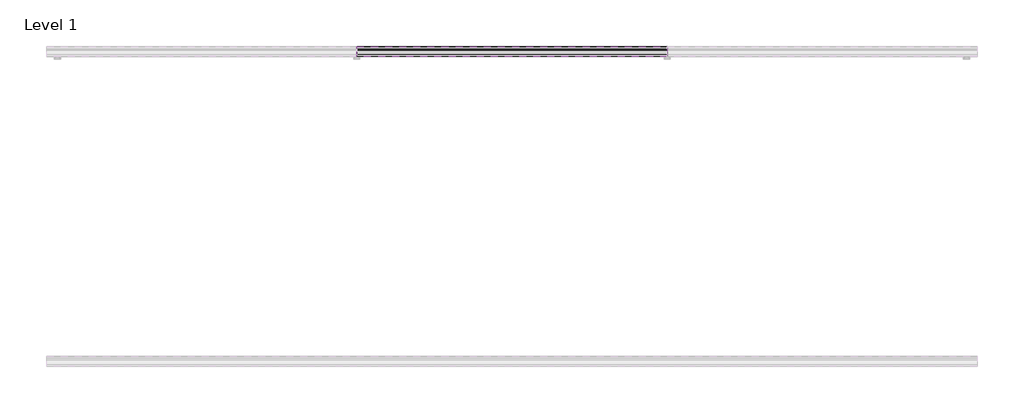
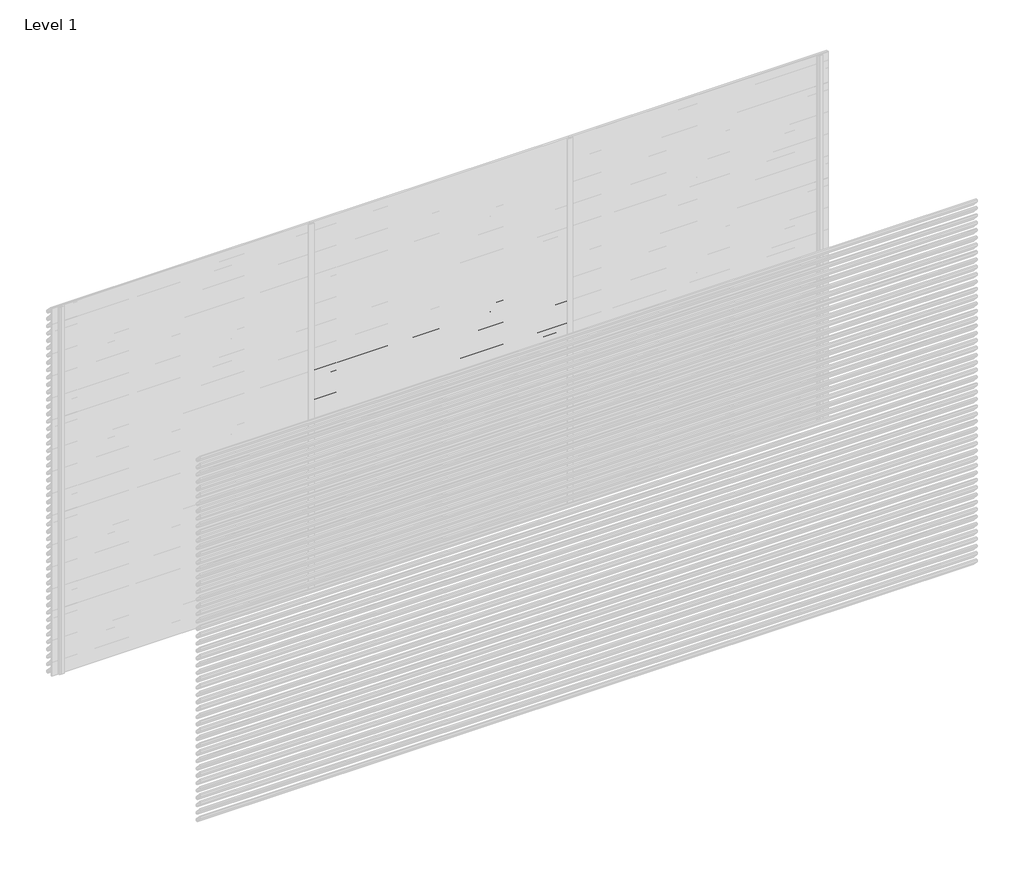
# One storey, part 98 of 153: 32 proxies.
"""IFC4 building model written with IfcOpenShell, lengths in millimetres."""

from ifc_helpers import new_model, si_unit, point, frame, frame_2d, origin, place, context, project, spatial, polyline, circle_curve, trimmed, segment, composite_curve, outline, extrude, element, save

model = new_model("IFC4")

# Units and contexts
model_context = context("Model", 3, world=origin())
ifc_project = project(units=[si_unit("LENGTHUNIT", "METRE", prefix="MILLI")], contexts=[model_context])

# Site, building, storey
site = spatial("IfcSite", under=ifc_project)
building = spatial("IfcBuilding", under=site)
storey = spatial("IfcBuildingStorey", under=building, Name="Level 1", Elevation=0.0)

# Proxies
placement = place(None, origin())
element("IfcBuildingElementProxy", 1, Name="Wall Sweeps", at=placement, inside=storey, context=model_context, shape_type="SweptSolid", body=[
    extrude(outline(composite_curve([segment(polyline([(43985.0540136, 1920.0), (43999.874191, 1918.7034025), (44049.0540136, 1865.0102749), (44049.0540136, 1853.6108187)]), True, "CONTINUOUS"), segment(trimmed(circle_curve(frame_2d((44045.7883652, 1853.897153)), 3.2781774), [point((44049.0540136, 1853.6108187))], [point((44046.4639442, 1850.6893438))], False, "CARTESIAN"), True, "CONTINUOUS"), segment(polyline([(44046.4639442, 1850.6893438), (44034.1895723, 1851.6282758), (43985.0540136, 1905.2730773), (43985.0540136, 1920.0)]), True, "CONTINUOUS")], self_intersect=False), holes=[composite_curve([segment(polyline([(43999.1621773, 1917.2599659), (43986.5540136, 1918.3630372), (43986.5540136, 1905.856213), (44034.8952036, 1853.0786805), (44046.3312542, 1852.2038762)]), True, "CONTINUOUS"), segment(trimmed(circle_curve(frame_2d((44045.7883652, 1853.897153)), 1.7781774), [point((44046.3312542, 1852.2038762))], [point((44047.5540136, 1853.6864389))], True, "CARTESIAN"), True, "CONTINUOUS"), segment(polyline([(44047.5540136, 1853.6864389), (44047.5540136, 1864.4271392), (43999.1621773, 1917.2599659)]), True, "CONTINUOUS")], self_intersect=False)]), frame((46966.6208098, 0.0, 0.0), z_axis=(1.0, 0.0, 0.0), x_axis=(0.0, 1.0, 0.0)), (0.0, 0.0, 1.0), 1999.9999998),
])
element("IfcBuildingElementProxy", 2, Name="Wall Sweeps", at=placement, inside=storey, context=model_context, shape_type="SweptSolid", body=[
    extrude(outline(composite_curve([segment(polyline([(43985.0540136, 1860.0), (43999.874191, 1858.7034025), (44049.0540136, 1805.0102749), (44049.0540136, 1793.6108187)]), True, "CONTINUOUS"), segment(trimmed(circle_curve(frame_2d((44045.7883652, 1793.897153)), 3.2781774), [point((44049.0540136, 1793.6108187))], [point((44046.4639442, 1790.6893438))], False, "CARTESIAN"), True, "CONTINUOUS"), segment(polyline([(44046.4639442, 1790.6893438), (44034.1895723, 1791.6282758), (43985.0540136, 1845.2730773), (43985.0540136, 1860.0)]), True, "CONTINUOUS")], self_intersect=False), holes=[composite_curve([segment(polyline([(43999.1621773, 1857.2599659), (43986.5540136, 1858.3630372), (43986.5540136, 1845.856213), (44034.8952036, 1793.0786805), (44046.3312542, 1792.2038762)]), True, "CONTINUOUS"), segment(trimmed(circle_curve(frame_2d((44045.7883652, 1793.897153)), 1.7781774), [point((44046.3312542, 1792.2038762))], [point((44047.5540136, 1793.6864389))], True, "CARTESIAN"), True, "CONTINUOUS"), segment(polyline([(44047.5540136, 1793.6864389), (44047.5540136, 1804.4271392), (43999.1621773, 1857.2599659)]), True, "CONTINUOUS")], self_intersect=False)]), frame((46966.6208098, 0.0, 0.0), z_axis=(1.0, 0.0, 0.0), x_axis=(0.0, 1.0, 0.0)), (0.0, 0.0, 1.0), 1999.9999998),
])
element("IfcBuildingElementProxy", 3, Name="Wall Sweeps", at=placement, inside=storey, context=model_context, shape_type="SweptSolid", body=[
    extrude(outline(composite_curve([segment(polyline([(43985.0540136, 1800.0), (43999.874191, 1798.7034025), (44049.0540136, 1745.0102749), (44049.0540136, 1733.6108187)]), True, "CONTINUOUS"), segment(trimmed(circle_curve(frame_2d((44045.7883652, 1733.897153)), 3.2781774), [point((44049.0540136, 1733.6108187))], [point((44046.4639442, 1730.6893438))], False, "CARTESIAN"), True, "CONTINUOUS"), segment(polyline([(44046.4639442, 1730.6893438), (44034.1895723, 1731.6282758), (43985.0540136, 1785.2730773), (43985.0540136, 1800.0)]), True, "CONTINUOUS")], self_intersect=False), holes=[composite_curve([segment(polyline([(43999.1621773, 1797.2599659), (43986.5540136, 1798.3630372), (43986.5540136, 1785.856213), (44034.8952036, 1733.0786805), (44046.3312542, 1732.2038762)]), True, "CONTINUOUS"), segment(trimmed(circle_curve(frame_2d((44045.7883652, 1733.897153)), 1.7781774), [point((44046.3312542, 1732.2038762))], [point((44047.5540136, 1733.6864389))], True, "CARTESIAN"), True, "CONTINUOUS"), segment(polyline([(44047.5540136, 1733.6864389), (44047.5540136, 1744.4271392), (43999.1621773, 1797.2599659)]), True, "CONTINUOUS")], self_intersect=False)]), frame((46966.6208098, 0.0, 0.0), z_axis=(1.0, 0.0, 0.0), x_axis=(0.0, 1.0, 0.0)), (0.0, 0.0, 1.0), 1999.9999998),
])
element("IfcBuildingElementProxy", 4, Name="Wall Sweeps", at=placement, inside=storey, context=model_context, shape_type="SweptSolid", body=[
    extrude(outline(composite_curve([segment(polyline([(43985.0540136, 1740.0), (43999.874191, 1738.7034025), (44049.0540136, 1685.0102749), (44049.0540136, 1673.6108187)]), True, "CONTINUOUS"), segment(trimmed(circle_curve(frame_2d((44045.7883652, 1673.897153)), 3.2781774), [point((44049.0540136, 1673.6108187))], [point((44046.4639442, 1670.6893438))], False, "CARTESIAN"), True, "CONTINUOUS"), segment(polyline([(44046.4639442, 1670.6893438), (44034.1895723, 1671.6282758), (43985.0540136, 1725.2730773), (43985.0540136, 1740.0)]), True, "CONTINUOUS")], self_intersect=False), holes=[composite_curve([segment(polyline([(43999.1621773, 1737.2599659), (43986.5540136, 1738.3630372), (43986.5540136, 1725.856213), (44034.8952036, 1673.0786805), (44046.3312542, 1672.2038762)]), True, "CONTINUOUS"), segment(trimmed(circle_curve(frame_2d((44045.7883652, 1673.897153)), 1.7781774), [point((44046.3312542, 1672.2038762))], [point((44047.5540136, 1673.6864389))], True, "CARTESIAN"), True, "CONTINUOUS"), segment(polyline([(44047.5540136, 1673.6864389), (44047.5540136, 1684.4271392), (43999.1621773, 1737.2599659)]), True, "CONTINUOUS")], self_intersect=False)]), frame((46966.6208098, 0.0, 0.0), z_axis=(1.0, 0.0, 0.0), x_axis=(0.0, 1.0, 0.0)), (0.0, 0.0, 1.0), 1999.9999998),
])
element("IfcBuildingElementProxy", 5, Name="Wall Sweeps", at=placement, inside=storey, context=model_context, shape_type="SweptSolid", body=[
    extrude(outline(composite_curve([segment(polyline([(43985.0540136, 1680.0), (43999.874191, 1678.7034025), (44049.0540136, 1625.0102749), (44049.0540136, 1613.6108187)]), True, "CONTINUOUS"), segment(trimmed(circle_curve(frame_2d((44045.7883652, 1613.897153)), 3.2781774), [point((44049.0540136, 1613.6108187))], [point((44046.4639442, 1610.6893438))], False, "CARTESIAN"), True, "CONTINUOUS"), segment(polyline([(44046.4639442, 1610.6893438), (44034.1895723, 1611.6282758), (43985.0540136, 1665.2730773), (43985.0540136, 1680.0)]), True, "CONTINUOUS")], self_intersect=False), holes=[composite_curve([segment(polyline([(43999.1621773, 1677.2599659), (43986.5540136, 1678.3630372), (43986.5540136, 1665.856213), (44034.8952036, 1613.0786805), (44046.3312542, 1612.2038762)]), True, "CONTINUOUS"), segment(trimmed(circle_curve(frame_2d((44045.7883652, 1613.897153)), 1.7781774), [point((44046.3312542, 1612.2038762))], [point((44047.5540136, 1613.6864389))], True, "CARTESIAN"), True, "CONTINUOUS"), segment(polyline([(44047.5540136, 1613.6864389), (44047.5540136, 1624.4271392), (43999.1621773, 1677.2599659)]), True, "CONTINUOUS")], self_intersect=False)]), frame((46966.6208098, 0.0, 0.0), z_axis=(1.0, 0.0, 0.0), x_axis=(0.0, 1.0, 0.0)), (0.0, 0.0, 1.0), 1999.9999998),
])
element("IfcBuildingElementProxy", 6, Name="Wall Sweeps", at=placement, inside=storey, context=model_context, shape_type="SweptSolid", body=[
    extrude(outline(composite_curve([segment(polyline([(43985.0540136, 1620.0), (43999.874191, 1618.7034025), (44049.0540136, 1565.0102749), (44049.0540136, 1553.6108187)]), True, "CONTINUOUS"), segment(trimmed(circle_curve(frame_2d((44045.7883652, 1553.897153)), 3.2781774), [point((44049.0540136, 1553.6108187))], [point((44046.4639442, 1550.6893438))], False, "CARTESIAN"), True, "CONTINUOUS"), segment(polyline([(44046.4639442, 1550.6893438), (44034.1895723, 1551.6282758), (43985.0540136, 1605.2730773), (43985.0540136, 1620.0)]), True, "CONTINUOUS")], self_intersect=False), holes=[composite_curve([segment(polyline([(43999.1621773, 1617.2599659), (43986.5540136, 1618.3630372), (43986.5540136, 1605.856213), (44034.8952036, 1553.0786805), (44046.3312542, 1552.2038762)]), True, "CONTINUOUS"), segment(trimmed(circle_curve(frame_2d((44045.7883652, 1553.897153)), 1.7781774), [point((44046.3312542, 1552.2038762))], [point((44047.5540136, 1553.6864389))], True, "CARTESIAN"), True, "CONTINUOUS"), segment(polyline([(44047.5540136, 1553.6864389), (44047.5540136, 1564.4271392), (43999.1621773, 1617.2599659)]), True, "CONTINUOUS")], self_intersect=False)]), frame((46966.6208098, 0.0, 0.0), z_axis=(1.0, 0.0, 0.0), x_axis=(0.0, 1.0, 0.0)), (0.0, 0.0, 1.0), 1999.9999998),
])
element("IfcBuildingElementProxy", 7, Name="Wall Sweeps", at=placement, inside=storey, context=model_context, shape_type="SweptSolid", body=[
    extrude(outline(composite_curve([segment(polyline([(43985.0540136, 1560.0), (43999.874191, 1558.7034025), (44049.0540136, 1505.0102749), (44049.0540136, 1493.6108187)]), True, "CONTINUOUS"), segment(trimmed(circle_curve(frame_2d((44045.7883652, 1493.897153)), 3.2781774), [point((44049.0540136, 1493.6108187))], [point((44046.4639442, 1490.6893438))], False, "CARTESIAN"), True, "CONTINUOUS"), segment(polyline([(44046.4639442, 1490.6893438), (44034.1895723, 1491.6282758), (43985.0540136, 1545.2730773), (43985.0540136, 1560.0)]), True, "CONTINUOUS")], self_intersect=False), holes=[composite_curve([segment(polyline([(43999.1621773, 1557.2599659), (43986.5540136, 1558.3630372), (43986.5540136, 1545.856213), (44034.8952036, 1493.0786805), (44046.3312542, 1492.2038762)]), True, "CONTINUOUS"), segment(trimmed(circle_curve(frame_2d((44045.7883652, 1493.897153)), 1.7781774), [point((44046.3312542, 1492.2038762))], [point((44047.5540136, 1493.6864389))], True, "CARTESIAN"), True, "CONTINUOUS"), segment(polyline([(44047.5540136, 1493.6864389), (44047.5540136, 1504.4271392), (43999.1621773, 1557.2599659)]), True, "CONTINUOUS")], self_intersect=False)]), frame((46966.6208098, 0.0, 0.0), z_axis=(1.0, 0.0, 0.0), x_axis=(0.0, 1.0, 0.0)), (0.0, 0.0, 1.0), 1999.9999998),
])
element("IfcBuildingElementProxy", 8, Name="Wall Sweeps", at=placement, inside=storey, context=model_context, shape_type="SweptSolid", body=[
    extrude(outline(composite_curve([segment(polyline([(43985.0540136, 1500.0), (43999.874191, 1498.7034025), (44049.0540136, 1445.0102749), (44049.0540136, 1433.6108187)]), True, "CONTINUOUS"), segment(trimmed(circle_curve(frame_2d((44045.7883652, 1433.897153)), 3.2781774), [point((44049.0540136, 1433.6108187))], [point((44046.4639442, 1430.6893438))], False, "CARTESIAN"), True, "CONTINUOUS"), segment(polyline([(44046.4639442, 1430.6893438), (44034.1895723, 1431.6282758), (43985.0540136, 1485.2730773), (43985.0540136, 1500.0)]), True, "CONTINUOUS")], self_intersect=False), holes=[composite_curve([segment(polyline([(43999.1621773, 1497.2599659), (43986.5540136, 1498.3630372), (43986.5540136, 1485.856213), (44034.8952036, 1433.0786805), (44046.3312542, 1432.2038762)]), True, "CONTINUOUS"), segment(trimmed(circle_curve(frame_2d((44045.7883652, 1433.897153)), 1.7781774), [point((44046.3312542, 1432.2038762))], [point((44047.5540136, 1433.6864389))], True, "CARTESIAN"), True, "CONTINUOUS"), segment(polyline([(44047.5540136, 1433.6864389), (44047.5540136, 1444.4271392), (43999.1621773, 1497.2599659)]), True, "CONTINUOUS")], self_intersect=False)]), frame((46966.6208098, 0.0, 0.0), z_axis=(1.0, 0.0, 0.0), x_axis=(0.0, 1.0, 0.0)), (0.0, 0.0, 1.0), 1999.9999998),
])
element("IfcBuildingElementProxy", 9, Name="Wall Sweeps", at=placement, inside=storey, context=model_context, shape_type="SweptSolid", body=[
    extrude(outline(composite_curve([segment(polyline([(43985.0540136, 1440.0), (43999.874191, 1438.7034025), (44049.0540136, 1385.0102749), (44049.0540136, 1373.6108187)]), True, "CONTINUOUS"), segment(trimmed(circle_curve(frame_2d((44045.7883652, 1373.897153)), 3.2781774), [point((44049.0540136, 1373.6108187))], [point((44046.4639442, 1370.6893438))], False, "CARTESIAN"), True, "CONTINUOUS"), segment(polyline([(44046.4639442, 1370.6893438), (44034.1895723, 1371.6282758), (43985.0540136, 1425.2730773), (43985.0540136, 1440.0)]), True, "CONTINUOUS")], self_intersect=False), holes=[composite_curve([segment(polyline([(43999.1621773, 1437.2599659), (43986.5540136, 1438.3630372), (43986.5540136, 1425.856213), (44034.8952036, 1373.0786805), (44046.3312542, 1372.2038762)]), True, "CONTINUOUS"), segment(trimmed(circle_curve(frame_2d((44045.7883652, 1373.897153)), 1.7781774), [point((44046.3312542, 1372.2038762))], [point((44047.5540136, 1373.6864389))], True, "CARTESIAN"), True, "CONTINUOUS"), segment(polyline([(44047.5540136, 1373.6864389), (44047.5540136, 1384.4271392), (43999.1621773, 1437.2599659)]), True, "CONTINUOUS")], self_intersect=False)]), frame((46966.6208098, 0.0, 0.0), z_axis=(1.0, 0.0, 0.0), x_axis=(0.0, 1.0, 0.0)), (0.0, 0.0, 1.0), 1999.9999998),
])
element("IfcBuildingElementProxy", 10, Name="Wall Sweeps", at=placement, inside=storey, context=model_context, shape_type="SweptSolid", body=[
    extrude(outline(composite_curve([segment(polyline([(43985.0540136, 1380.0), (43999.874191, 1378.7034025), (44049.0540136, 1325.0102749), (44049.0540136, 1313.6108187)]), True, "CONTINUOUS"), segment(trimmed(circle_curve(frame_2d((44045.7883652, 1313.897153)), 3.2781774), [point((44049.0540136, 1313.6108187))], [point((44046.4639442, 1310.6893438))], False, "CARTESIAN"), True, "CONTINUOUS"), segment(polyline([(44046.4639442, 1310.6893438), (44034.1895723, 1311.6282758), (43985.0540136, 1365.2730773), (43985.0540136, 1380.0)]), True, "CONTINUOUS")], self_intersect=False), holes=[composite_curve([segment(polyline([(43999.1621773, 1377.2599659), (43986.5540136, 1378.3630372), (43986.5540136, 1365.856213), (44034.8952036, 1313.0786805), (44046.3312542, 1312.2038762)]), True, "CONTINUOUS"), segment(trimmed(circle_curve(frame_2d((44045.7883652, 1313.897153)), 1.7781774), [point((44046.3312542, 1312.2038762))], [point((44047.5540136, 1313.6864389))], True, "CARTESIAN"), True, "CONTINUOUS"), segment(polyline([(44047.5540136, 1313.6864389), (44047.5540136, 1324.4271392), (43999.1621773, 1377.2599659)]), True, "CONTINUOUS")], self_intersect=False)]), frame((46966.6208098, 0.0, 0.0), z_axis=(1.0, 0.0, 0.0), x_axis=(0.0, 1.0, 0.0)), (0.0, 0.0, 1.0), 1999.9999998),
])
element("IfcBuildingElementProxy", 11, Name="Wall Sweeps", at=placement, inside=storey, context=model_context, shape_type="SweptSolid", body=[
    extrude(outline(composite_curve([segment(polyline([(43985.0540136, 1320.0), (43999.874191, 1318.7034025), (44049.0540136, 1265.0102749), (44049.0540136, 1253.6108187)]), True, "CONTINUOUS"), segment(trimmed(circle_curve(frame_2d((44045.7883652, 1253.897153)), 3.2781774), [point((44049.0540136, 1253.6108187))], [point((44046.4639442, 1250.6893438))], False, "CARTESIAN"), True, "CONTINUOUS"), segment(polyline([(44046.4639442, 1250.6893438), (44034.1895723, 1251.6282758), (43985.0540136, 1305.2730773), (43985.0540136, 1320.0)]), True, "CONTINUOUS")], self_intersect=False), holes=[composite_curve([segment(polyline([(43999.1621773, 1317.2599659), (43986.5540136, 1318.3630372), (43986.5540136, 1305.856213), (44034.8952036, 1253.0786805), (44046.3312542, 1252.2038762)]), True, "CONTINUOUS"), segment(trimmed(circle_curve(frame_2d((44045.7883652, 1253.897153)), 1.7781774), [point((44046.3312542, 1252.2038762))], [point((44047.5540136, 1253.6864389))], True, "CARTESIAN"), True, "CONTINUOUS"), segment(polyline([(44047.5540136, 1253.6864389), (44047.5540136, 1264.4271392), (43999.1621773, 1317.2599659)]), True, "CONTINUOUS")], self_intersect=False)]), frame((46966.6208098, 0.0, 0.0), z_axis=(1.0, 0.0, 0.0), x_axis=(0.0, 1.0, 0.0)), (0.0, 0.0, 1.0), 1999.9999998),
])
element("IfcBuildingElementProxy", 12, Name="Wall Sweeps", at=placement, inside=storey, context=model_context, shape_type="SweptSolid", body=[
    extrude(outline(composite_curve([segment(polyline([(43985.0540136, 1260.0), (43999.874191, 1258.7034025), (44049.0540136, 1205.0102749), (44049.0540136, 1193.6108187)]), True, "CONTINUOUS"), segment(trimmed(circle_curve(frame_2d((44045.7883652, 1193.897153)), 3.2781774), [point((44049.0540136, 1193.6108187))], [point((44046.4639442, 1190.6893438))], False, "CARTESIAN"), True, "CONTINUOUS"), segment(polyline([(44046.4639442, 1190.6893438), (44034.1895723, 1191.6282758), (43985.0540136, 1245.2730773), (43985.0540136, 1260.0)]), True, "CONTINUOUS")], self_intersect=False), holes=[composite_curve([segment(polyline([(43999.1621773, 1257.2599659), (43986.5540136, 1258.3630372), (43986.5540136, 1245.856213), (44034.8952036, 1193.0786805), (44046.3312542, 1192.2038762)]), True, "CONTINUOUS"), segment(trimmed(circle_curve(frame_2d((44045.7883652, 1193.897153)), 1.7781774), [point((44046.3312542, 1192.2038762))], [point((44047.5540136, 1193.6864389))], True, "CARTESIAN"), True, "CONTINUOUS"), segment(polyline([(44047.5540136, 1193.6864389), (44047.5540136, 1204.4271392), (43999.1621773, 1257.2599659)]), True, "CONTINUOUS")], self_intersect=False)]), frame((46966.6208098, 0.0, 0.0), z_axis=(1.0, 0.0, 0.0), x_axis=(0.0, 1.0, 0.0)), (0.0, 0.0, 1.0), 1999.9999998),
])
element("IfcBuildingElementProxy", 13, Name="Wall Sweeps", at=placement, inside=storey, context=model_context, shape_type="SweptSolid", body=[
    extrude(outline(composite_curve([segment(polyline([(43985.0540136, 1200.0), (43999.874191, 1198.7034025), (44049.0540136, 1145.0102749), (44049.0540136, 1133.6108187)]), True, "CONTINUOUS"), segment(trimmed(circle_curve(frame_2d((44045.7883652, 1133.897153)), 3.2781774), [point((44049.0540136, 1133.6108187))], [point((44046.4639442, 1130.6893438))], False, "CARTESIAN"), True, "CONTINUOUS"), segment(polyline([(44046.4639442, 1130.6893438), (44034.1895723, 1131.6282758), (43985.0540136, 1185.2730773), (43985.0540136, 1200.0)]), True, "CONTINUOUS")], self_intersect=False), holes=[composite_curve([segment(polyline([(43999.1621773, 1197.2599659), (43986.5540136, 1198.3630372), (43986.5540136, 1185.856213), (44034.8952036, 1133.0786805), (44046.3312542, 1132.2038762)]), True, "CONTINUOUS"), segment(trimmed(circle_curve(frame_2d((44045.7883652, 1133.897153)), 1.7781774), [point((44046.3312542, 1132.2038762))], [point((44047.5540136, 1133.6864389))], True, "CARTESIAN"), True, "CONTINUOUS"), segment(polyline([(44047.5540136, 1133.6864389), (44047.5540136, 1144.4271392), (43999.1621773, 1197.2599659)]), True, "CONTINUOUS")], self_intersect=False)]), frame((46966.6208098, 0.0, 0.0), z_axis=(1.0, 0.0, 0.0), x_axis=(0.0, 1.0, 0.0)), (0.0, 0.0, 1.0), 1999.9999998),
])
element("IfcBuildingElementProxy", 14, Name="Wall Sweeps", at=placement, inside=storey, context=model_context, shape_type="SweptSolid", body=[
    extrude(outline(composite_curve([segment(polyline([(43985.0540136, 1140.0), (43999.874191, 1138.7034025), (44049.0540136, 1085.0102749), (44049.0540136, 1073.6108187)]), True, "CONTINUOUS"), segment(trimmed(circle_curve(frame_2d((44045.7883652, 1073.897153)), 3.2781774), [point((44049.0540136, 1073.6108187))], [point((44046.4639442, 1070.6893438))], False, "CARTESIAN"), True, "CONTINUOUS"), segment(polyline([(44046.4639442, 1070.6893438), (44034.1895723, 1071.6282758), (43985.0540136, 1125.2730773), (43985.0540136, 1140.0)]), True, "CONTINUOUS")], self_intersect=False), holes=[composite_curve([segment(polyline([(43999.1621773, 1137.2599659), (43986.5540136, 1138.3630372), (43986.5540136, 1125.856213), (44034.8952036, 1073.0786805), (44046.3312542, 1072.2038762)]), True, "CONTINUOUS"), segment(trimmed(circle_curve(frame_2d((44045.7883652, 1073.897153)), 1.7781774), [point((44046.3312542, 1072.2038762))], [point((44047.5540136, 1073.6864389))], True, "CARTESIAN"), True, "CONTINUOUS"), segment(polyline([(44047.5540136, 1073.6864389), (44047.5540136, 1084.4271392), (43999.1621773, 1137.2599659)]), True, "CONTINUOUS")], self_intersect=False)]), frame((46966.6208098, 0.0, 0.0), z_axis=(1.0, 0.0, 0.0), x_axis=(0.0, 1.0, 0.0)), (0.0, 0.0, 1.0), 1999.9999998),
])
element("IfcBuildingElementProxy", 15, Name="Wall Sweeps", at=placement, inside=storey, context=model_context, shape_type="SweptSolid", body=[
    extrude(outline(composite_curve([segment(polyline([(43985.0540136, 1080.0), (43999.874191, 1078.7034025), (44049.0540136, 1025.0102749), (44049.0540136, 1013.6108187)]), True, "CONTINUOUS"), segment(trimmed(circle_curve(frame_2d((44045.7883652, 1013.897153)), 3.2781774), [point((44049.0540136, 1013.6108187))], [point((44046.4639442, 1010.6893438))], False, "CARTESIAN"), True, "CONTINUOUS"), segment(polyline([(44046.4639442, 1010.6893438), (44034.1895723, 1011.6282758), (43985.0540136, 1065.2730773), (43985.0540136, 1080.0)]), True, "CONTINUOUS")], self_intersect=False), holes=[composite_curve([segment(polyline([(43999.1621773, 1077.2599659), (43986.5540136, 1078.3630372), (43986.5540136, 1065.856213), (44034.8952036, 1013.0786805), (44046.3312542, 1012.2038762)]), True, "CONTINUOUS"), segment(trimmed(circle_curve(frame_2d((44045.7883652, 1013.897153)), 1.7781774), [point((44046.3312542, 1012.2038762))], [point((44047.5540136, 1013.6864389))], True, "CARTESIAN"), True, "CONTINUOUS"), segment(polyline([(44047.5540136, 1013.6864389), (44047.5540136, 1024.4271392), (43999.1621773, 1077.2599659)]), True, "CONTINUOUS")], self_intersect=False)]), frame((46966.6208098, 0.0, 0.0), z_axis=(1.0, 0.0, 0.0), x_axis=(0.0, 1.0, 0.0)), (0.0, 0.0, 1.0), 1999.9999998),
])
element("IfcBuildingElementProxy", 16, Name="Wall Sweeps", at=placement, inside=storey, context=model_context, shape_type="SweptSolid", body=[
    extrude(outline(composite_curve([segment(polyline([(43985.0540136, 1020.0), (43999.874191, 1018.7034025), (44049.0540136, 965.0102749), (44049.0540136, 953.6108187)]), True, "CONTINUOUS"), segment(trimmed(circle_curve(frame_2d((44045.7883652, 953.897153)), 3.2781774), [point((44049.0540136, 953.6108187))], [point((44046.4639442, 950.6893438))], False, "CARTESIAN"), True, "CONTINUOUS"), segment(polyline([(44046.4639442, 950.6893438), (44034.1895723, 951.6282758), (43985.0540136, 1005.2730773), (43985.0540136, 1020.0)]), True, "CONTINUOUS")], self_intersect=False), holes=[composite_curve([segment(polyline([(43999.1621773, 1017.2599659), (43986.5540136, 1018.3630372), (43986.5540136, 1005.856213), (44034.8952036, 953.0786805), (44046.3312542, 952.2038762)]), True, "CONTINUOUS"), segment(trimmed(circle_curve(frame_2d((44045.7883652, 953.897153)), 1.7781774), [point((44046.3312542, 952.2038762))], [point((44047.5540136, 953.6864389))], True, "CARTESIAN"), True, "CONTINUOUS"), segment(polyline([(44047.5540136, 953.6864389), (44047.5540136, 964.4271392), (43999.1621773, 1017.2599659)]), True, "CONTINUOUS")], self_intersect=False)]), frame((46966.6208098, 0.0, 0.0), z_axis=(1.0, 0.0, 0.0), x_axis=(0.0, 1.0, 0.0)), (0.0, 0.0, 1.0), 1999.9999998),
])
element("IfcBuildingElementProxy", 17, Name="Wall Sweeps", at=placement, inside=storey, context=model_context, shape_type="SweptSolid", body=[
    extrude(outline(composite_curve([segment(polyline([(43985.0540136, 960.0), (43999.874191, 958.7034025), (44049.0540136, 905.0102749), (44049.0540136, 893.6108187)]), True, "CONTINUOUS"), segment(trimmed(circle_curve(frame_2d((44045.7883652, 893.897153)), 3.2781774), [point((44049.0540136, 893.6108187))], [point((44046.4639442, 890.6893438))], False, "CARTESIAN"), True, "CONTINUOUS"), segment(polyline([(44046.4639442, 890.6893438), (44034.1895723, 891.6282758), (43985.0540136, 945.2730773), (43985.0540136, 960.0)]), True, "CONTINUOUS")], self_intersect=False), holes=[composite_curve([segment(polyline([(43999.1621773, 957.2599659), (43986.5540136, 958.3630372), (43986.5540136, 945.856213), (44034.8952036, 893.0786805), (44046.3312542, 892.2038762)]), True, "CONTINUOUS"), segment(trimmed(circle_curve(frame_2d((44045.7883652, 893.897153)), 1.7781774), [point((44046.3312542, 892.2038762))], [point((44047.5540136, 893.6864389))], True, "CARTESIAN"), True, "CONTINUOUS"), segment(polyline([(44047.5540136, 893.6864389), (44047.5540136, 904.4271392), (43999.1621773, 957.2599659)]), True, "CONTINUOUS")], self_intersect=False)]), frame((46966.6208098, 0.0, 0.0), z_axis=(1.0, 0.0, 0.0), x_axis=(0.0, 1.0, 0.0)), (0.0, 0.0, 1.0), 1999.9999998),
])
element("IfcBuildingElementProxy", 18, Name="Wall Sweeps", at=placement, inside=storey, context=model_context, shape_type="SweptSolid", body=[
    extrude(outline(composite_curve([segment(polyline([(43985.0540136, 900.0), (43999.874191, 898.7034025), (44049.0540136, 845.0102749), (44049.0540136, 833.6108187)]), True, "CONTINUOUS"), segment(trimmed(circle_curve(frame_2d((44045.7883652, 833.897153)), 3.2781774), [point((44049.0540136, 833.6108187))], [point((44046.4639442, 830.6893438))], False, "CARTESIAN"), True, "CONTINUOUS"), segment(polyline([(44046.4639442, 830.6893438), (44034.1895723, 831.6282758), (43985.0540136, 885.2730773), (43985.0540136, 900.0)]), True, "CONTINUOUS")], self_intersect=False), holes=[composite_curve([segment(polyline([(43999.1621773, 897.2599659), (43986.5540136, 898.3630372), (43986.5540136, 885.856213), (44034.8952036, 833.0786805), (44046.3312542, 832.2038762)]), True, "CONTINUOUS"), segment(trimmed(circle_curve(frame_2d((44045.7883652, 833.897153)), 1.7781774), [point((44046.3312542, 832.2038762))], [point((44047.5540136, 833.6864389))], True, "CARTESIAN"), True, "CONTINUOUS"), segment(polyline([(44047.5540136, 833.6864389), (44047.5540136, 844.4271392), (43999.1621773, 897.2599659)]), True, "CONTINUOUS")], self_intersect=False)]), frame((46966.6208098, 0.0, 0.0), z_axis=(1.0, 0.0, 0.0), x_axis=(0.0, 1.0, 0.0)), (0.0, 0.0, 1.0), 1999.9999998),
])
element("IfcBuildingElementProxy", 19, Name="Wall Sweeps", at=placement, inside=storey, context=model_context, shape_type="SweptSolid", body=[
    extrude(outline(composite_curve([segment(polyline([(43985.0540136, 840.0), (43999.874191, 838.7034025), (44049.0540136, 785.0102749), (44049.0540136, 773.6108187)]), True, "CONTINUOUS"), segment(trimmed(circle_curve(frame_2d((44045.7883652, 773.897153)), 3.2781774), [point((44049.0540136, 773.6108187))], [point((44046.4639442, 770.6893438))], False, "CARTESIAN"), True, "CONTINUOUS"), segment(polyline([(44046.4639442, 770.6893438), (44034.1895723, 771.6282758), (43985.0540136, 825.2730773), (43985.0540136, 840.0)]), True, "CONTINUOUS")], self_intersect=False), holes=[composite_curve([segment(polyline([(43999.1621773, 837.2599659), (43986.5540136, 838.3630372), (43986.5540136, 825.856213), (44034.8952036, 773.0786805), (44046.3312542, 772.2038762)]), True, "CONTINUOUS"), segment(trimmed(circle_curve(frame_2d((44045.7883652, 773.897153)), 1.7781774), [point((44046.3312542, 772.2038762))], [point((44047.5540136, 773.6864389))], True, "CARTESIAN"), True, "CONTINUOUS"), segment(polyline([(44047.5540136, 773.6864389), (44047.5540136, 784.4271392), (43999.1621773, 837.2599659)]), True, "CONTINUOUS")], self_intersect=False)]), frame((46966.6208098, 0.0, 0.0), z_axis=(1.0, 0.0, 0.0), x_axis=(0.0, 1.0, 0.0)), (0.0, 0.0, 1.0), 1999.9999998),
])
element("IfcBuildingElementProxy", 20, Name="Wall Sweeps", at=placement, inside=storey, context=model_context, shape_type="SweptSolid", body=[
    extrude(outline(composite_curve([segment(polyline([(43985.0540136, 780.0), (43999.874191, 778.7034025), (44049.0540136, 725.0102749), (44049.0540136, 713.6108187)]), True, "CONTINUOUS"), segment(trimmed(circle_curve(frame_2d((44045.7883652, 713.897153)), 3.2781774), [point((44049.0540136, 713.6108187))], [point((44046.4639442, 710.6893438))], False, "CARTESIAN"), True, "CONTINUOUS"), segment(polyline([(44046.4639442, 710.6893438), (44034.1895723, 711.6282758), (43985.0540136, 765.2730773), (43985.0540136, 780.0)]), True, "CONTINUOUS")], self_intersect=False), holes=[composite_curve([segment(polyline([(43999.1621773, 777.2599659), (43986.5540136, 778.3630372), (43986.5540136, 765.856213), (44034.8952036, 713.0786805), (44046.3312542, 712.2038762)]), True, "CONTINUOUS"), segment(trimmed(circle_curve(frame_2d((44045.7883652, 713.897153)), 1.7781774), [point((44046.3312542, 712.2038762))], [point((44047.5540136, 713.6864389))], True, "CARTESIAN"), True, "CONTINUOUS"), segment(polyline([(44047.5540136, 713.6864389), (44047.5540136, 724.4271392), (43999.1621773, 777.2599659)]), True, "CONTINUOUS")], self_intersect=False)]), frame((46966.6208098, 0.0, 0.0), z_axis=(1.0, 0.0, 0.0), x_axis=(0.0, 1.0, 0.0)), (0.0, 0.0, 1.0), 1999.9999998),
])
element("IfcBuildingElementProxy", 21, Name="Wall Sweeps", at=placement, inside=storey, context=model_context, shape_type="SweptSolid", body=[
    extrude(outline(composite_curve([segment(polyline([(43985.0540136, 720.0), (43999.874191, 718.7034025), (44049.0540136, 665.0102749), (44049.0540136, 653.6108187)]), True, "CONTINUOUS"), segment(trimmed(circle_curve(frame_2d((44045.7883652, 653.897153)), 3.2781774), [point((44049.0540136, 653.6108187))], [point((44046.4639442, 650.6893438))], False, "CARTESIAN"), True, "CONTINUOUS"), segment(polyline([(44046.4639442, 650.6893438), (44034.1895723, 651.6282758), (43985.0540136, 705.2730773), (43985.0540136, 720.0)]), True, "CONTINUOUS")], self_intersect=False), holes=[composite_curve([segment(polyline([(43999.1621773, 717.2599659), (43986.5540136, 718.3630372), (43986.5540136, 705.856213), (44034.8952036, 653.0786805), (44046.3312542, 652.2038762)]), True, "CONTINUOUS"), segment(trimmed(circle_curve(frame_2d((44045.7883652, 653.897153)), 1.7781774), [point((44046.3312542, 652.2038762))], [point((44047.5540136, 653.6864389))], True, "CARTESIAN"), True, "CONTINUOUS"), segment(polyline([(44047.5540136, 653.6864389), (44047.5540136, 664.4271392), (43999.1621773, 717.2599659)]), True, "CONTINUOUS")], self_intersect=False)]), frame((46966.6208098, 0.0, 0.0), z_axis=(1.0, 0.0, 0.0), x_axis=(0.0, 1.0, 0.0)), (0.0, 0.0, 1.0), 1999.9999998),
])
element("IfcBuildingElementProxy", 22, Name="Wall Sweeps", at=placement, inside=storey, context=model_context, shape_type="SweptSolid", body=[
    extrude(outline(composite_curve([segment(polyline([(43985.0540136, 660.0), (43999.874191, 658.7034025), (44049.0540136, 605.0102749), (44049.0540136, 593.6108187)]), True, "CONTINUOUS"), segment(trimmed(circle_curve(frame_2d((44045.7883652, 593.897153)), 3.2781774), [point((44049.0540136, 593.6108187))], [point((44046.4639442, 590.6893438))], False, "CARTESIAN"), True, "CONTINUOUS"), segment(polyline([(44046.4639442, 590.6893438), (44034.1895723, 591.6282758), (43985.0540136, 645.2730773), (43985.0540136, 660.0)]), True, "CONTINUOUS")], self_intersect=False), holes=[composite_curve([segment(polyline([(43999.1621773, 657.2599659), (43986.5540136, 658.3630372), (43986.5540136, 645.856213), (44034.8952036, 593.0786805), (44046.3312542, 592.2038762)]), True, "CONTINUOUS"), segment(trimmed(circle_curve(frame_2d((44045.7883652, 593.897153)), 1.7781774), [point((44046.3312542, 592.2038762))], [point((44047.5540136, 593.6864389))], True, "CARTESIAN"), True, "CONTINUOUS"), segment(polyline([(44047.5540136, 593.6864389), (44047.5540136, 604.4271392), (43999.1621773, 657.2599659)]), True, "CONTINUOUS")], self_intersect=False)]), frame((46966.6208098, 0.0, 0.0), z_axis=(1.0, 0.0, 0.0), x_axis=(0.0, 1.0, 0.0)), (0.0, 0.0, 1.0), 1999.9999998),
])
element("IfcBuildingElementProxy", 23, Name="Wall Sweeps", at=placement, inside=storey, context=model_context, shape_type="SweptSolid", body=[
    extrude(outline(composite_curve([segment(polyline([(43985.0540136, 600.0), (43999.874191, 598.7034025), (44049.0540136, 545.0102749), (44049.0540136, 533.6108187)]), True, "CONTINUOUS"), segment(trimmed(circle_curve(frame_2d((44045.7883652, 533.897153)), 3.2781774), [point((44049.0540136, 533.6108187))], [point((44046.4639442, 530.6893438))], False, "CARTESIAN"), True, "CONTINUOUS"), segment(polyline([(44046.4639442, 530.6893438), (44034.1895723, 531.6282758), (43985.0540136, 585.2730773), (43985.0540136, 600.0)]), True, "CONTINUOUS")], self_intersect=False), holes=[composite_curve([segment(polyline([(43999.1621773, 597.2599659), (43986.5540136, 598.3630372), (43986.5540136, 585.856213), (44034.8952036, 533.0786805), (44046.3312542, 532.2038762)]), True, "CONTINUOUS"), segment(trimmed(circle_curve(frame_2d((44045.7883652, 533.897153)), 1.7781774), [point((44046.3312542, 532.2038762))], [point((44047.5540136, 533.6864389))], True, "CARTESIAN"), True, "CONTINUOUS"), segment(polyline([(44047.5540136, 533.6864389), (44047.5540136, 544.4271392), (43999.1621773, 597.2599659)]), True, "CONTINUOUS")], self_intersect=False)]), frame((46966.6208098, 0.0, 0.0), z_axis=(1.0, 0.0, 0.0), x_axis=(0.0, 1.0, 0.0)), (0.0, 0.0, 1.0), 1999.9999998),
])
element("IfcBuildingElementProxy", 24, Name="Wall Sweeps", at=placement, inside=storey, context=model_context, shape_type="SweptSolid", body=[
    extrude(outline(composite_curve([segment(polyline([(43985.0540136, 540.0), (43999.874191, 538.7034025), (44049.0540136, 485.0102749), (44049.0540136, 473.6108187)]), True, "CONTINUOUS"), segment(trimmed(circle_curve(frame_2d((44045.7883652, 473.897153)), 3.2781774), [point((44049.0540136, 473.6108187))], [point((44046.4639442, 470.6893438))], False, "CARTESIAN"), True, "CONTINUOUS"), segment(polyline([(44046.4639442, 470.6893438), (44034.1895723, 471.6282758), (43985.0540136, 525.2730773), (43985.0540136, 540.0)]), True, "CONTINUOUS")], self_intersect=False), holes=[composite_curve([segment(polyline([(43999.1621773, 537.2599659), (43986.5540136, 538.3630372), (43986.5540136, 525.856213), (44034.8952036, 473.0786805), (44046.3312542, 472.2038762)]), True, "CONTINUOUS"), segment(trimmed(circle_curve(frame_2d((44045.7883652, 473.897153)), 1.7781774), [point((44046.3312542, 472.2038762))], [point((44047.5540136, 473.6864389))], True, "CARTESIAN"), True, "CONTINUOUS"), segment(polyline([(44047.5540136, 473.6864389), (44047.5540136, 484.4271392), (43999.1621773, 537.2599659)]), True, "CONTINUOUS")], self_intersect=False)]), frame((46966.6208098, 0.0, 0.0), z_axis=(1.0, 0.0, 0.0), x_axis=(0.0, 1.0, 0.0)), (0.0, 0.0, 1.0), 1999.9999998),
])
element("IfcBuildingElementProxy", 25, Name="Wall Sweeps", at=placement, inside=storey, context=model_context, shape_type="SweptSolid", body=[
    extrude(outline(composite_curve([segment(polyline([(43985.0540136, 480.0), (43999.874191, 478.7034025), (44049.0540136, 425.0102749), (44049.0540136, 413.6108187)]), True, "CONTINUOUS"), segment(trimmed(circle_curve(frame_2d((44045.7883652, 413.897153)), 3.2781774), [point((44049.0540136, 413.6108187))], [point((44046.4639442, 410.6893438))], False, "CARTESIAN"), True, "CONTINUOUS"), segment(polyline([(44046.4639442, 410.6893438), (44034.1895723, 411.6282758), (43985.0540136, 465.2730773), (43985.0540136, 480.0)]), True, "CONTINUOUS")], self_intersect=False), holes=[composite_curve([segment(polyline([(43999.1621773, 477.2599659), (43986.5540136, 478.3630372), (43986.5540136, 465.856213), (44034.8952036, 413.0786805), (44046.3312542, 412.2038762)]), True, "CONTINUOUS"), segment(trimmed(circle_curve(frame_2d((44045.7883652, 413.897153)), 1.7781774), [point((44046.3312542, 412.2038762))], [point((44047.5540136, 413.6864389))], True, "CARTESIAN"), True, "CONTINUOUS"), segment(polyline([(44047.5540136, 413.6864389), (44047.5540136, 424.4271392), (43999.1621773, 477.2599659)]), True, "CONTINUOUS")], self_intersect=False)]), frame((46966.6208098, 0.0, 0.0), z_axis=(1.0, 0.0, 0.0), x_axis=(0.0, 1.0, 0.0)), (0.0, 0.0, 1.0), 1999.9999998),
])
element("IfcBuildingElementProxy", 26, Name="Wall Sweeps", at=placement, inside=storey, context=model_context, shape_type="SweptSolid", body=[
    extrude(outline(composite_curve([segment(polyline([(43985.0540136, 420.0), (43999.874191, 418.7034025), (44049.0540136, 365.0102749), (44049.0540136, 353.6108187)]), True, "CONTINUOUS"), segment(trimmed(circle_curve(frame_2d((44045.7883652, 353.897153)), 3.2781774), [point((44049.0540136, 353.6108187))], [point((44046.4639442, 350.6893438))], False, "CARTESIAN"), True, "CONTINUOUS"), segment(polyline([(44046.4639442, 350.6893438), (44034.1895723, 351.6282758), (43985.0540136, 405.2730773), (43985.0540136, 420.0)]), True, "CONTINUOUS")], self_intersect=False), holes=[composite_curve([segment(polyline([(43999.1621773, 417.2599659), (43986.5540136, 418.3630372), (43986.5540136, 405.856213), (44034.8952036, 353.0786805), (44046.3312542, 352.2038762)]), True, "CONTINUOUS"), segment(trimmed(circle_curve(frame_2d((44045.7883652, 353.897153)), 1.7781774), [point((44046.3312542, 352.2038762))], [point((44047.5540136, 353.6864389))], True, "CARTESIAN"), True, "CONTINUOUS"), segment(polyline([(44047.5540136, 353.6864389), (44047.5540136, 364.4271392), (43999.1621773, 417.2599659)]), True, "CONTINUOUS")], self_intersect=False)]), frame((46966.6208098, 0.0, 0.0), z_axis=(1.0, 0.0, 0.0), x_axis=(0.0, 1.0, 0.0)), (0.0, 0.0, 1.0), 1999.9999998),
])
element("IfcBuildingElementProxy", 27, Name="Wall Sweeps", at=placement, inside=storey, context=model_context, shape_type="SweptSolid", body=[
    extrude(outline(composite_curve([segment(polyline([(43985.0540136, 360.0), (43999.874191, 358.7034025), (44049.0540136, 305.0102749), (44049.0540136, 293.6108187)]), True, "CONTINUOUS"), segment(trimmed(circle_curve(frame_2d((44045.7883652, 293.897153)), 3.2781774), [point((44049.0540136, 293.6108187))], [point((44046.4639442, 290.6893438))], False, "CARTESIAN"), True, "CONTINUOUS"), segment(polyline([(44046.4639442, 290.6893438), (44034.1895723, 291.6282758), (43985.0540136, 345.2730773), (43985.0540136, 360.0)]), True, "CONTINUOUS")], self_intersect=False), holes=[composite_curve([segment(polyline([(43999.1621773, 357.2599659), (43986.5540136, 358.3630372), (43986.5540136, 345.856213), (44034.8952036, 293.0786805), (44046.3312542, 292.2038762)]), True, "CONTINUOUS"), segment(trimmed(circle_curve(frame_2d((44045.7883652, 293.897153)), 1.7781774), [point((44046.3312542, 292.2038762))], [point((44047.5540136, 293.6864389))], True, "CARTESIAN"), True, "CONTINUOUS"), segment(polyline([(44047.5540136, 293.6864389), (44047.5540136, 304.4271392), (43999.1621773, 357.2599659)]), True, "CONTINUOUS")], self_intersect=False)]), frame((46966.6208098, 0.0, 0.0), z_axis=(1.0, 0.0, 0.0), x_axis=(0.0, 1.0, 0.0)), (0.0, 0.0, 1.0), 1999.9999998),
])
element("IfcBuildingElementProxy", 28, Name="Wall Sweeps", at=placement, inside=storey, context=model_context, shape_type="SweptSolid", body=[
    extrude(outline(composite_curve([segment(polyline([(43985.0540136, 300.0), (43999.874191, 298.7034025), (44049.0540136, 245.0102749), (44049.0540136, 233.6108187)]), True, "CONTINUOUS"), segment(trimmed(circle_curve(frame_2d((44045.7883652, 233.897153)), 3.2781774), [point((44049.0540136, 233.6108187))], [point((44046.4639442, 230.6893438))], False, "CARTESIAN"), True, "CONTINUOUS"), segment(polyline([(44046.4639442, 230.6893438), (44034.1895723, 231.6282758), (43985.0540136, 285.2730773), (43985.0540136, 300.0)]), True, "CONTINUOUS")], self_intersect=False), holes=[composite_curve([segment(polyline([(43999.1621773, 297.2599659), (43986.5540136, 298.3630372), (43986.5540136, 285.856213), (44034.8952036, 233.0786805), (44046.3312542, 232.2038762)]), True, "CONTINUOUS"), segment(trimmed(circle_curve(frame_2d((44045.7883652, 233.897153)), 1.7781774), [point((44046.3312542, 232.2038762))], [point((44047.5540136, 233.6864389))], True, "CARTESIAN"), True, "CONTINUOUS"), segment(polyline([(44047.5540136, 233.6864389), (44047.5540136, 244.4271392), (43999.1621773, 297.2599659)]), True, "CONTINUOUS")], self_intersect=False)]), frame((46966.6208098, 0.0, 0.0), z_axis=(1.0, 0.0, 0.0), x_axis=(0.0, 1.0, 0.0)), (0.0, 0.0, 1.0), 1999.9999998),
])
element("IfcBuildingElementProxy", 29, Name="Wall Sweeps", at=placement, inside=storey, context=model_context, shape_type="SweptSolid", body=[
    extrude(outline(composite_curve([segment(polyline([(43985.0540136, 240.0), (43999.874191, 238.7034025), (44049.0540136, 185.0102749), (44049.0540136, 173.6108187)]), True, "CONTINUOUS"), segment(trimmed(circle_curve(frame_2d((44045.7883652, 173.897153)), 3.2781774), [point((44049.0540136, 173.6108187))], [point((44046.4639442, 170.6893438))], False, "CARTESIAN"), True, "CONTINUOUS"), segment(polyline([(44046.4639442, 170.6893438), (44034.1895723, 171.6282758), (43985.0540136, 225.2730773), (43985.0540136, 240.0)]), True, "CONTINUOUS")], self_intersect=False), holes=[composite_curve([segment(polyline([(43999.1621773, 237.2599659), (43986.5540136, 238.3630372), (43986.5540136, 225.856213), (44034.8952036, 173.0786805), (44046.3312542, 172.2038762)]), True, "CONTINUOUS"), segment(trimmed(circle_curve(frame_2d((44045.7883652, 173.897153)), 1.7781774), [point((44046.3312542, 172.2038762))], [point((44047.5540136, 173.6864389))], True, "CARTESIAN"), True, "CONTINUOUS"), segment(polyline([(44047.5540136, 173.6864389), (44047.5540136, 184.4271392), (43999.1621773, 237.2599659)]), True, "CONTINUOUS")], self_intersect=False)]), frame((46966.6208098, 0.0, 0.0), z_axis=(1.0, 0.0, 0.0), x_axis=(0.0, 1.0, 0.0)), (0.0, 0.0, 1.0), 1999.9999998),
])
element("IfcBuildingElementProxy", 30, Name="Wall Sweeps", at=placement, inside=storey, context=model_context, shape_type="SweptSolid", body=[
    extrude(outline(composite_curve([segment(polyline([(43985.0540136, 180.0), (43999.874191, 178.7034025), (44049.0540136, 125.0102749), (44049.0540136, 113.6108187)]), True, "CONTINUOUS"), segment(trimmed(circle_curve(frame_2d((44045.7883652, 113.897153)), 3.2781774), [point((44049.0540136, 113.6108187))], [point((44046.4639442, 110.6893438))], False, "CARTESIAN"), True, "CONTINUOUS"), segment(polyline([(44046.4639442, 110.6893438), (44034.1895723, 111.6282758), (43985.0540136, 165.2730773), (43985.0540136, 180.0)]), True, "CONTINUOUS")], self_intersect=False), holes=[composite_curve([segment(polyline([(43999.1621773, 177.2599659), (43986.5540136, 178.3630372), (43986.5540136, 165.856213), (44034.8952036, 113.0786805), (44046.3312542, 112.2038762)]), True, "CONTINUOUS"), segment(trimmed(circle_curve(frame_2d((44045.7883652, 113.897153)), 1.7781774), [point((44046.3312542, 112.2038762))], [point((44047.5540136, 113.6864389))], True, "CARTESIAN"), True, "CONTINUOUS"), segment(polyline([(44047.5540136, 113.6864389), (44047.5540136, 124.4271392), (43999.1621773, 177.2599659)]), True, "CONTINUOUS")], self_intersect=False)]), frame((46966.6208098, 0.0, 0.0), z_axis=(1.0, 0.0, 0.0), x_axis=(0.0, 1.0, 0.0)), (0.0, 0.0, 1.0), 1999.9999998),
])
element("IfcBuildingElementProxy", 31, Name="Wall Sweeps", at=placement, inside=storey, context=model_context, shape_type="SweptSolid", body=[
    extrude(outline(composite_curve([segment(polyline([(43985.0540136, 120.0), (43999.874191, 118.7034025), (44049.0540136, 65.0102749), (44049.0540136, 53.6108187)]), True, "CONTINUOUS"), segment(trimmed(circle_curve(frame_2d((44045.7883652, 53.897153)), 3.2781774), [point((44049.0540136, 53.6108187))], [point((44046.4639442, 50.6893438))], False, "CARTESIAN"), True, "CONTINUOUS"), segment(polyline([(44046.4639442, 50.6893438), (44034.1895723, 51.6282758), (43985.0540136, 105.2730773), (43985.0540136, 120.0)]), True, "CONTINUOUS")], self_intersect=False), holes=[composite_curve([segment(polyline([(43999.1621773, 117.2599659), (43986.5540136, 118.3630372), (43986.5540136, 105.856213), (44034.8952036, 53.0786805), (44046.3312542, 52.2038762)]), True, "CONTINUOUS"), segment(trimmed(circle_curve(frame_2d((44045.7883652, 53.897153)), 1.7781774), [point((44046.3312542, 52.2038762))], [point((44047.5540136, 53.6864389))], True, "CARTESIAN"), True, "CONTINUOUS"), segment(polyline([(44047.5540136, 53.6864389), (44047.5540136, 64.4271392), (43999.1621773, 117.2599659)]), True, "CONTINUOUS")], self_intersect=False)]), frame((46966.6208098, 0.0, 0.0), z_axis=(1.0, 0.0, 0.0), x_axis=(0.0, 1.0, 0.0)), (0.0, 0.0, 1.0), 1999.9999998),
])
element("IfcBuildingElementProxy", 32, Name="Wall Sweeps", at=placement, inside=storey, context=model_context, shape_type="SweptSolid", body=[
    extrude(outline(composite_curve([segment(polyline([(43985.0540136, 60.0), (43999.874191, 58.7034025), (44049.0540136, 5.0102749), (44049.0540136, -6.3891813)]), True, "CONTINUOUS"), segment(trimmed(circle_curve(frame_2d((44045.7883652, -6.102847)), 3.2781774), [point((44049.0540136, -6.3891813))], [point((44046.4639442, -9.3106562))], False, "CARTESIAN"), True, "CONTINUOUS"), segment(polyline([(44046.4639442, -9.3106562), (44034.1895723, -8.3717242), (43985.0540136, 45.2730773), (43985.0540136, 60.0)]), True, "CONTINUOUS")], self_intersect=False), holes=[composite_curve([segment(polyline([(43999.1621773, 57.2599659), (43986.5540136, 58.3630372), (43986.5540136, 45.856213), (44034.8952036, -6.9213195), (44046.3312542, -7.7961238)]), True, "CONTINUOUS"), segment(trimmed(circle_curve(frame_2d((44045.7883652, -6.102847)), 1.7781774), [point((44046.3312542, -7.7961238))], [point((44047.5540136, -6.3135611))], True, "CARTESIAN"), True, "CONTINUOUS"), segment(polyline([(44047.5540136, -6.3135611), (44047.5540136, 4.4271392), (43999.1621773, 57.2599659)]), True, "CONTINUOUS")], self_intersect=False)]), frame((46966.6208098, 0.0, 0.0), z_axis=(1.0, 0.0, 0.0), x_axis=(0.0, 1.0, 0.0)), (0.0, 0.0, 1.0), 1999.9999998),
])

save(model, "model.ifc")
